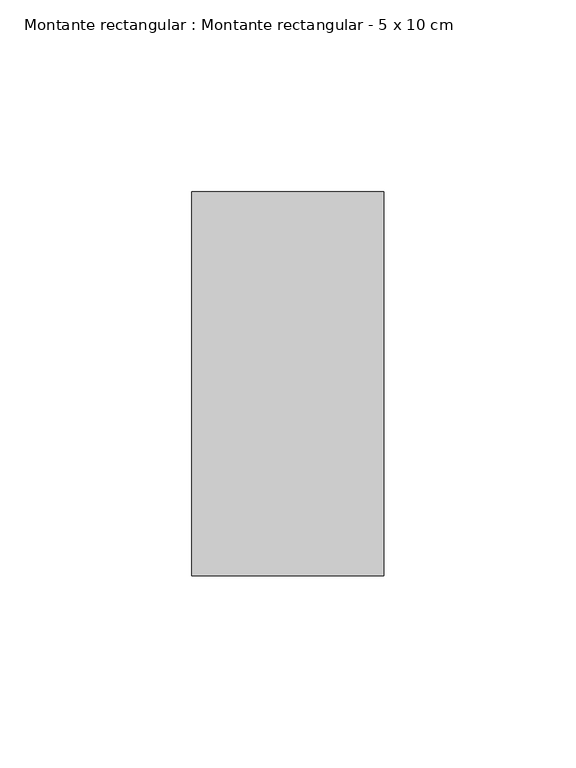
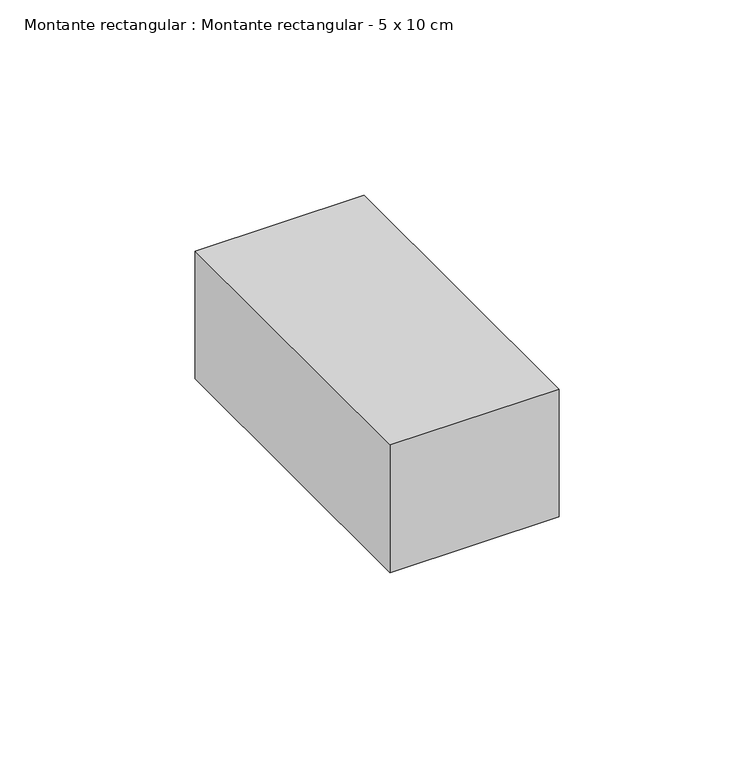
"""IFC4 building model written with IfcOpenShell, lengths in millimetres: member geometry, Montante rectangular : Montante rectangular - 5 x 10 cm."""

from ifc_helpers import new_model, si_unit, frame, origin, place, context, project, spatial, polyline, outline, extrude, source, transform, mapped, element, save


def montante_rectangular_montante_rectangular_5_x_10_cm_d7a80438(model_context):
    return source(origin(), model_context, "Body", "SweptSolid", [
        extrude(outline(polyline([(-50.0, 50.0), (0.0, 50.0), (0.0, -50.0), (-50.0, -50.0), (-50.0, 50.0)])), frame((0.0, 0.0, -40.0), z_axis=(0.0, 0.0, 1.0), x_axis=(1.0, 0.0, 0.0)), (0.0, 0.0, 1.0), 40.0),
    ])


if __name__ == "__main__":
    model = new_model("IFC4")
    model_context = context("Model", 3, world=origin())
    ifc_project = project(units=[si_unit("LENGTHUNIT", "METRE", prefix="MILLI")], contexts=[model_context])
    site = spatial("IfcSite", under=ifc_project)
    building = spatial("IfcBuilding", under=site)
    placement = place(None, origin())
    montante_rectangular_montante_rectangular_5_x_10_cm_shape = montante_rectangular_montante_rectangular_5_x_10_cm_d7a80438(model_context)
    element("IfcMember", 1, ObjectType="Montante rectangular : Montante rectangular - 5 x 10 cm", at=placement, inside=building, context=model_context, shape_type="MappedRepresentation", body=[
        mapped(montante_rectangular_montante_rectangular_5_x_10_cm_shape, transform((0.0, 0.0, 0.0), x_axis=(1.0, 0.0, 0.0), y_axis=(0.0, 1.0, 0.0), z_axis=(0.0, 0.0, 1.0))),
    ])
    save(model, "model.ifc")
